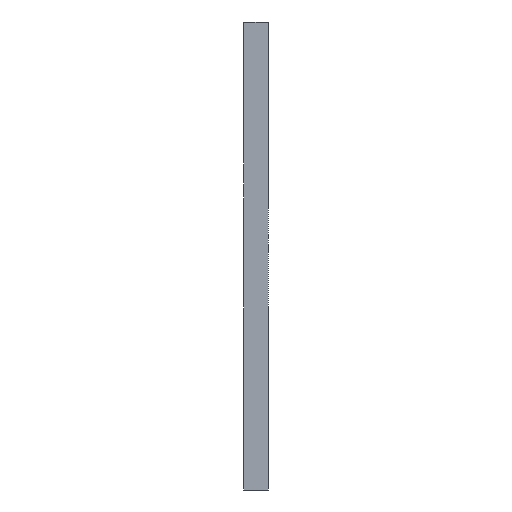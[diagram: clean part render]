
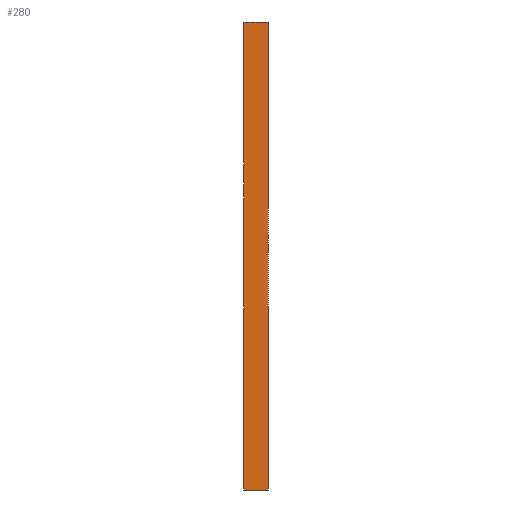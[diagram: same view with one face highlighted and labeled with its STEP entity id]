
A CAD part, left-side view. The second image highlights one B-rep face of the part: STEP entity #280.
In plain terms, the highlighted planar face has unit normal (-1, 0, 0).
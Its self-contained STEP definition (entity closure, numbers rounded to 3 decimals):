
#31 = FACE_OUTER_BOUND ( 'NONE', #852, .T. ) ;
#67 = CARTESIAN_POINT ( 'NONE',  ( -180.5, 0., -329. ) ) ;
#74 = AXIS2_PLACEMENT_3D ( 'NONE', #204, #649, #392 ) ;
#75 = EDGE_CURVE ( 'NONE', #349, #886, #235, .T. ) ;
#140 = ORIENTED_EDGE ( 'NONE', *, *, #484, .F. ) ;
#166 = CARTESIAN_POINT ( 'NONE',  ( -180.5, -20., -329. ) ) ;
#204 = CARTESIAN_POINT ( 'NONE',  ( -180.5, -20., -329. ) ) ;
#235 = LINE ( 'NONE', #486, #582 ) ;
#241 = VECTOR ( 'NONE', #670, 1000. ) ;
#252 = LINE ( 'NONE', #166, #1095 ) ;
#279 = ORIENTED_EDGE ( 'NONE', *, *, #75, .T. ) ;
#280 = ADVANCED_FACE ( 'NONE', ( #31 ), #821, .T. ) ;
#299 = DIRECTION ( 'NONE',  ( 0., 1., 0. ) ) ;
#342 = EDGE_CURVE ( 'NONE', #397, #349, #252, .T. ) ;
#345 = DIRECTION ( 'NONE',  ( 0., 0., 1. ) ) ;
#349 = VERTEX_POINT ( 'NONE', #864 ) ;
#392 = DIRECTION ( 'NONE',  ( 0., 0., 1. ) ) ;
#397 = VERTEX_POINT ( 'NONE', #912 ) ;
#410 = DIRECTION ( 'NONE',  ( 0., 1., 0. ) ) ;
#466 = EDGE_CURVE ( 'NONE', #534, #886, #837, .T. ) ;
#484 = EDGE_CURVE ( 'NONE', #397, #534, #507, .T. ) ;
#486 = CARTESIAN_POINT ( 'NONE',  ( -180.5, -20., 50. ) ) ;
#507 = LINE ( 'NONE', #939, #563 ) ;
#534 = VERTEX_POINT ( 'NONE', #1037 ) ;
#554 = ORIENTED_EDGE ( 'NONE', *, *, #466, .F. ) ;
#563 = VECTOR ( 'NONE', #410, 1000. ) ;
#582 = VECTOR ( 'NONE', #299, 1000. ) ;
#649 = DIRECTION ( 'NONE',  ( -1., 0., 0. ) ) ;
#670 = DIRECTION ( 'NONE',  ( 0., 0., 1. ) ) ;
#821 = PLANE ( 'NONE',  #74 ) ;
#837 = LINE ( 'NONE', #67, #241 ) ;
#852 = EDGE_LOOP ( 'NONE', ( #554, #140, #1032, #279 ) ) ;
#864 = CARTESIAN_POINT ( 'NONE',  ( -180.5, -20., 50. ) ) ;
#886 = VERTEX_POINT ( 'NONE', #976 ) ;
#912 = CARTESIAN_POINT ( 'NONE',  ( -180.5, -20., -329. ) ) ;
#939 = CARTESIAN_POINT ( 'NONE',  ( -180.5, -20., -329. ) ) ;
#976 = CARTESIAN_POINT ( 'NONE',  ( -180.5, 0., 50. ) ) ;
#1032 = ORIENTED_EDGE ( 'NONE', *, *, #342, .T. ) ;
#1037 = CARTESIAN_POINT ( 'NONE',  ( -180.5, 0., -329. ) ) ;
#1095 = VECTOR ( 'NONE', #345, 1000. ) ;
